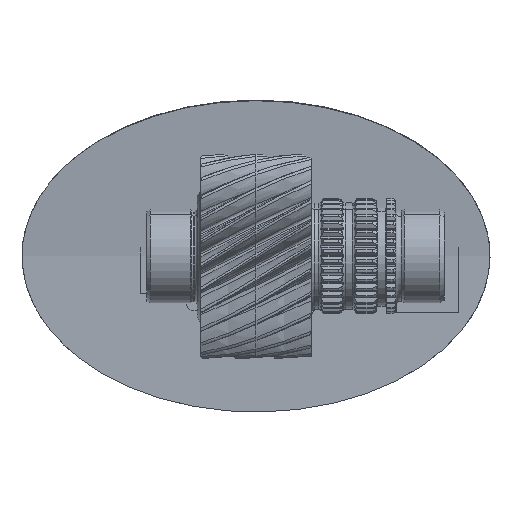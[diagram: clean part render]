
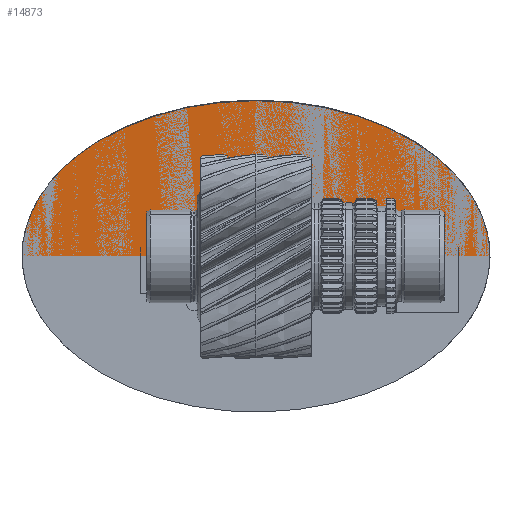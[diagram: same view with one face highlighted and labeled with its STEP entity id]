
A CAD part, left-side view. The second image highlights one B-rep face of the part: STEP entity #14873.
In plain terms, the highlighted planar face has unit normal (0.996, 0, 0.087).
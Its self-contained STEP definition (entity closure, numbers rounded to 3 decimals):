
#8319=ELLIPSE('',#120714,75.,50.);
#13602=PLANE('',#120713);
#14873=ADVANCED_FACE('Extracted Body(4)',(#16028),#13602,.T.);
#16028=FACE_OUTER_BOUND('',#30385,.T.);
#22654=ORIENTED_EDGE('',*,*,#25992,.T.);
#25992=EDGE_CURVE('3315',#29206,#29206,#8319,.T.);
#29206=VERTEX_POINT('2179',#113384);
#30385=EDGE_LOOP('',(#22654));
#113383=CARTESIAN_POINT('',(10.459,-124.953,-119.543));
#113384=CARTESIAN_POINT('',(0.,-109.953,0.));
#113385=CARTESIAN_POINT('',(0.,-34.953,0.));
#120713=AXIS2_PLACEMENT_3D('',#113383,#122280,#121282);
#120714=AXIS2_PLACEMENT_3D('',#113385,#122280,#121276);
#121276=DIRECTION('',(0.,-1.,0.));
#121282=DIRECTION('',(0.,1.,0.));
#122280=DIRECTION('',(0.996,0.,0.087));
